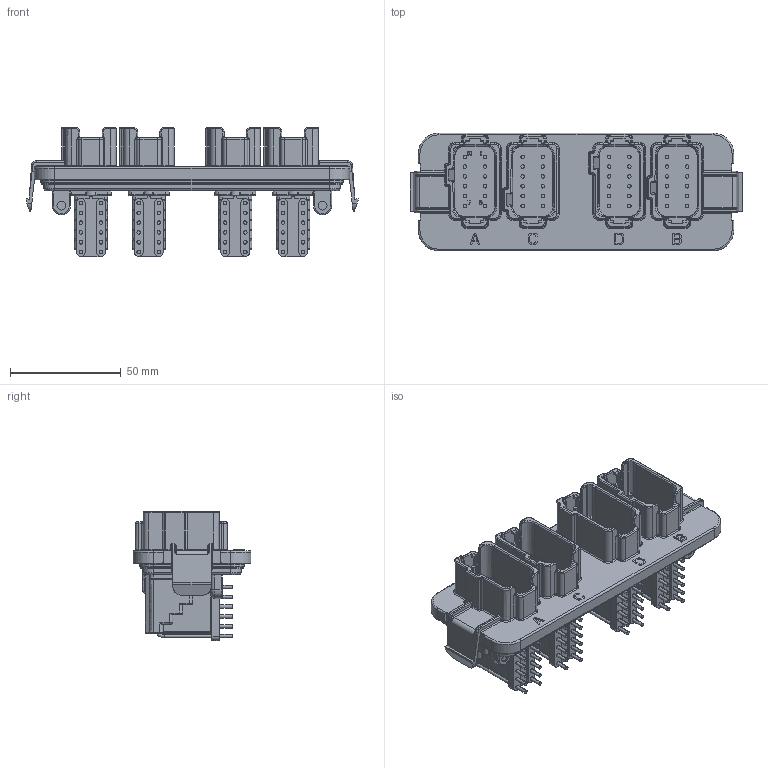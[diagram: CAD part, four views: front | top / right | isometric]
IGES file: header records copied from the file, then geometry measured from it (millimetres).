
Start section:  PTC IGES file: c-dt13-48pabcd-r015-99-3d.igs
Global section: file name: c-dt13-48pabcd-r015-99-3d.igs; native system: Pro/ENGINEER by Parametric Technology Corporation; preprocessor: 2011490; author: workeradm; organization: Unknown; units: millimetre
Bounding box: 150.22 x 53.26 x 58.37 mm (x, y, z)
Surface area: 53726.1 mm2 (no closed solid volume)
Topology: 0 solids, 0 shells, 2748 faces, 13488 edges, 13488 vertices
Faces by surface type: revolution 1502, bspline 1246
